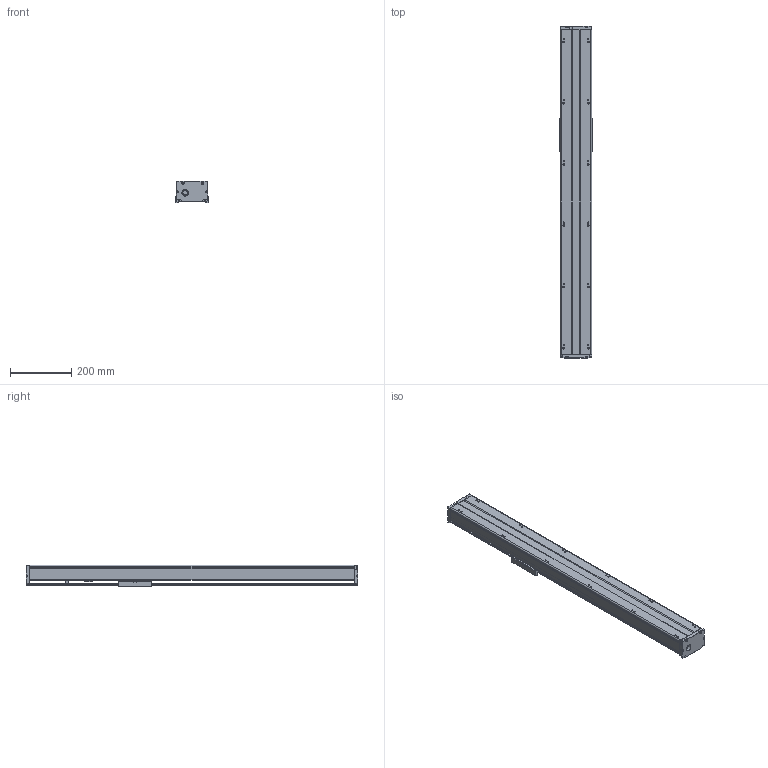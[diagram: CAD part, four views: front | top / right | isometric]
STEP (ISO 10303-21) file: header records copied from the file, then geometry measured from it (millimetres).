
FILE_DESCRIPTION(/* description */ (''),/* implementation_level */ '2;1');
FILE_NAME(/* name */ 'TKA100-700A1FI_asm1.stp',/* time_stamp */ '2017-02-21T08:56:36+08:00',/* author */ (''),/* organization */ (''),/* preprocessor_version */ 'ST-DEVELOPER v15',/* originating_system */ 'SIEMENS PLM Software NX 8.5',/* authorisation */ '');
FILE_SCHEMA (('AUTOMOTIVE_DESIGN { 1 0 10303 214 3 1 1 1 }'));
Length unit declared in the file: millimetre
Products named in the file (3): 200-02; 200-01; TKA100-700A1FI_asm1_stp
Assembly tree (2 placements, depth 2):
  TKA100-700A1FI_asm1_stp
    200-01
    200-02
Bounding box: 110 x 1084 x 71 mm (x, y, z)
Volume: 2278412.2 mm3; surface area: 739712.9 mm2
Topology: 2 solids, 9 shells, 859 faces, 2220 edges, 1407 vertices
Faces by surface type: plane 359, cylinder 291, cone 149, torus 34, bspline 26
Full cylindrical faces by diameter (mm): 2.5 x4, 2.6 x8, 3.3 x8, 3.4 x4, 3.8 x4, 4.2 x21, 4.3 x4, 4.5 x4, 5 x1, 5.5 x24, 6.6 x4, 8 x5, 9 x4, 10 x12, 11 x4, 12 x7, 15.3 x1, 16 x1, 22 x1, 24 x1, 28 x5, 30 x1
Entity records: 30542 total; most frequent: CARTESIAN_POINT 10564, DIRECTION 4150, ORIENTED_EDGE 3874, EDGE_CURVE 1937, AXIS2_PLACEMENT_3D 1604, VERTEX_POINT 1332, EDGE_LOOP 1153, LINE 942
